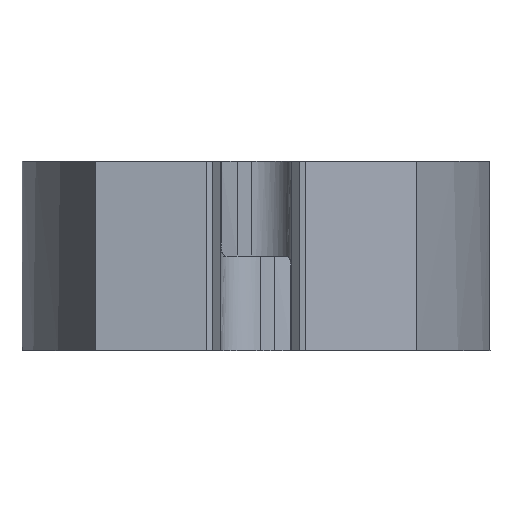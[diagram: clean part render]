
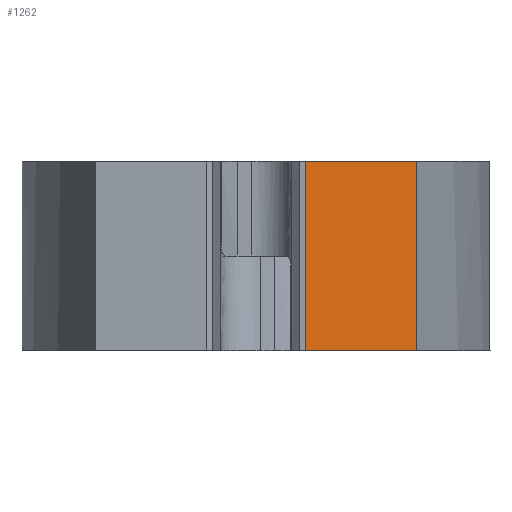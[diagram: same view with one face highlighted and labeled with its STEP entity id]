
A CAD part, left-side view. The second image highlights one B-rep face of the part: STEP entity #1262.
In plain terms, the highlighted planar face has unit normal (-0.996, -0.091, 0) as drawn and (-1, 0, 0) by its records, which use the part's own axes.
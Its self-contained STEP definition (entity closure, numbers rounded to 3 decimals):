
#106 = CARTESIAN_POINT ( 'NONE',  ( -20., 0., 7. ) ) ;
#1262 = ADVANCED_FACE ( 'NONE', ( #7505 ), #10078, .T. ) ;
#1714 = DIRECTION ( 'NONE',  ( 0., 0., -1. ) ) ;
#1761 = VERTEX_POINT ( 'NONE', #106 ) ;
#1768 = EDGE_LOOP ( 'NONE', ( #3124, #4778, #9422, #3505 ) ) ;
#1919 = CARTESIAN_POINT ( 'NONE',  ( -20., -4.138, 7. ) ) ;
#2585 = CARTESIAN_POINT ( 'NONE',  ( -20., 0., 0. ) ) ;
#3124 = ORIENTED_EDGE ( 'NONE', *, *, #8124, .F. ) ;
#3158 = CARTESIAN_POINT ( 'NONE',  ( -20., -2.069, 0. ) ) ;
#3219 = LINE ( 'NONE', #4710, #9490 ) ;
#3230 = VECTOR ( 'NONE', #1714, 1000. ) ;
#3237 = VERTEX_POINT ( 'NONE', #5820 ) ;
#3315 = VERTEX_POINT ( 'NONE', #1919 ) ;
#3505 = ORIENTED_EDGE ( 'NONE', *, *, #3965, .T. ) ;
#3729 = VECTOR ( 'NONE', #3952, 1000. ) ;
#3920 = DIRECTION ( 'NONE',  ( 0., 0., -1. ) ) ;
#3952 = DIRECTION ( 'NONE',  ( 0., -1., 0. ) ) ;
#3965 = EDGE_CURVE ( 'NONE', #5885, #3237, #5788, .T. ) ;
#4066 = CARTESIAN_POINT ( 'NONE',  ( -20., 0., 7. ) ) ;
#4710 = CARTESIAN_POINT ( 'NONE',  ( -20., 0., 3.5 ) ) ;
#4778 = ORIENTED_EDGE ( 'NONE', *, *, #5808, .F. ) ;
#4817 = DIRECTION ( 'NONE',  ( 0., -1., 0. ) ) ;
#4860 = CARTESIAN_POINT ( 'NONE',  ( -20., -4.138, 3.5 ) ) ;
#5559 = LINE ( 'NONE', #4860, #3230 ) ;
#5788 = LINE ( 'NONE', #3158, #3729 ) ;
#5808 = EDGE_CURVE ( 'NONE', #1761, #3315, #9248, .T. ) ;
#5820 = CARTESIAN_POINT ( 'NONE',  ( -20., -4.138, 0. ) ) ;
#5885 = VERTEX_POINT ( 'NONE', #2585 ) ;
#6183 = CARTESIAN_POINT ( 'NONE',  ( -20., 0., 0. ) ) ;
#7130 = VECTOR ( 'NONE', #4817, 1000. ) ;
#7505 = FACE_OUTER_BOUND ( 'NONE', #1768, .T. ) ;
#7657 = DIRECTION ( 'NONE',  ( -1., 0., 0. ) ) ;
#7738 = AXIS2_PLACEMENT_3D ( 'NONE', #6183, #7657, #8455 ) ;
#8124 = EDGE_CURVE ( 'NONE', #3315, #3237, #5559, .T. ) ;
#8455 = DIRECTION ( 'NONE',  ( 0., -1., 0. ) ) ;
#9235 = EDGE_CURVE ( 'NONE', #1761, #5885, #3219, .T. ) ;
#9248 = LINE ( 'NONE', #4066, #7130 ) ;
#9422 = ORIENTED_EDGE ( 'NONE', *, *, #9235, .T. ) ;
#9490 = VECTOR ( 'NONE', #3920, 1000. ) ;
#10078 = PLANE ( 'NONE',  #7738 ) ;
